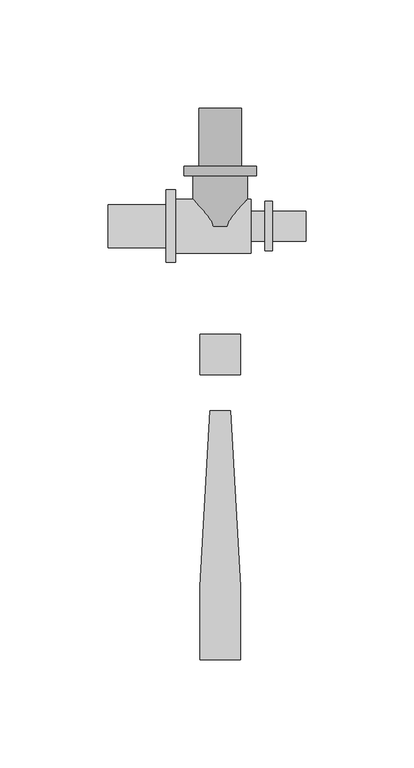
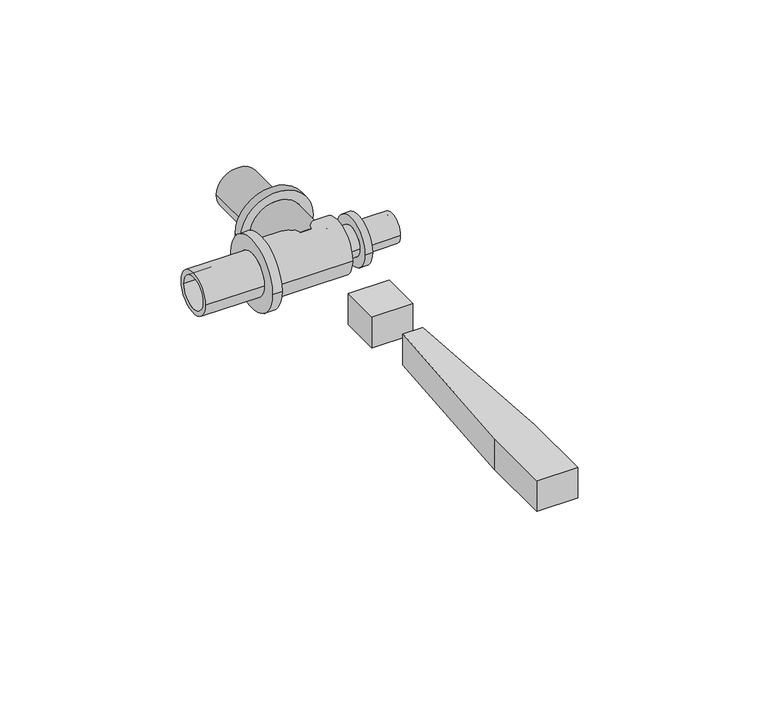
"""IFC4 building model written with IfcOpenShell, lengths in millimetres: pipe fitting geometry, RAUTITAN_T-piece_LX : RTI LX T DN."""

from ifc_helpers import new_model, si_unit, frame, origin, origin_with_axes, place, context, project, spatial, polyline, circle_curve, outline, extrude, source, transform, mapped, element, save
from ifc_brep_helpers import plane_surface, cylinder_surface, revolved_surface, advanced_brep


def pipe_fitting_2bffeb97(model_context):
    return source(origin(), model_context, "Body", "SolidModel", [
        advanced_brep(
        [(-12.5, 23.4, 0.0), (12.5, 23.4, 0.0), (12.5, 0.0, 0.0), (-12.5, 0.0, 0.0), (-16.8, 27.6, 0.0), (16.8, 27.6, 0.0), (16.8, 23.4, 0.0), (-16.8, 23.4, 0.0), (-9.9, 54.6, 0.0), (9.9, 54.6, 0.0), (9.9, 27.6, 0.0), (-9.9, 27.6, 0.0), (-7.6, 0.0, 0.0), (7.6, 0.0, 0.0), (7.6, 54.6, 0.0), (-7.6, 54.6, 0.0)],
        [
            (0, 1, circle_curve(frame((0.0, 23.4, 0.0), z_axis=(0.0, -1.0, 0.0), x_axis=(1.0, 0.0, 0.0)), 12.5)),
            (1, 2),
            (2, 3, circle_curve(frame((0.0, 0.0, 0.0), z_axis=(0.0, 1.0, 0.0), x_axis=(1.0, 0.0, 0.0)), 12.5)),
            (3, 0),
            (4, 5, circle_curve(frame((0.0, 27.6, 0.0), z_axis=(0.0, -1.0, 0.0), x_axis=(1.0, 0.0, 0.0)), 16.8)),
            (5, 6),
            (6, 7, circle_curve(frame((0.0, 23.4, 0.0), z_axis=(0.0, 1.0, 0.0), x_axis=(1.0, 0.0, 0.0)), 16.8)),
            (7, 4),
            (8, 9, circle_curve(frame((0.0, 54.6, 0.0), z_axis=(0.0, -1.0, 0.0), x_axis=(1.0, 0.0, 0.0)), 9.9)),
            (9, 10),
            (10, 11, circle_curve(frame((0.0, 27.6, 0.0), z_axis=(0.0, 1.0, 0.0), x_axis=(1.0, 0.0, 0.0)), 9.9)),
            (11, 8),
            (12, 13, circle_curve(frame((0.0, 0.0, 0.0), z_axis=(0.0, -1.0, 0.0), x_axis=(1.0, 0.0, 0.0)), 7.6)),
            (13, 14),
            (14, 15, circle_curve(frame((0.0, 54.6, 0.0), z_axis=(0.0, 1.0, 0.0), x_axis=(1.0, 0.0, 0.0)), 7.6)),
            (15, 12),
            (1, 0, circle_curve(frame((0.0, 23.4, 0.0), z_axis=(0.0, -1.0, 0.0), x_axis=(-1.0, 0.0, 0.0)), 12.5)),
            (3, 2, circle_curve(frame((0.0, 0.0, 0.0), z_axis=(0.0, 1.0, 0.0), x_axis=(-1.0, 0.0, 0.0)), 12.5)),
            (6, 7, circle_curve(frame((0.0, 23.4, 0.0), z_axis=(0.0, -1.0, 0.0), x_axis=(-1.0, 0.0, 0.0)), 16.8)),
            (5, 4, circle_curve(frame((0.0, 27.6, 0.0), z_axis=(0.0, -1.0, 0.0), x_axis=(-1.0, 0.0, 0.0)), 16.8)),
            (10, 11, circle_curve(frame((0.0, 27.6, 0.0), z_axis=(0.0, -1.0, 0.0), x_axis=(-1.0, 0.0, 0.0)), 9.9)),
            (9, 8, circle_curve(frame((0.0, 54.6, 0.0), z_axis=(0.0, -1.0, 0.0), x_axis=(-1.0, 0.0, 0.0)), 9.9)),
            (14, 15, circle_curve(frame((0.0, 54.6, 0.0), z_axis=(0.0, -1.0, 0.0), x_axis=(-1.0, 0.0, 0.0)), 7.6)),
            (13, 12, circle_curve(frame((0.0, 0.0, 0.0), z_axis=(0.0, -1.0, 0.0), x_axis=(-1.0, 0.0, 0.0)), 7.6)),
        ],
        [
            cylinder_surface(frame((0.0, 0.0, 0.0), z_axis=(0.0, 1.0, 0.0), x_axis=(1.0, 0.0, 0.0)), 12.5),
            cylinder_surface(frame((0.0, 0.0, 0.0), z_axis=(0.0, 1.0, 0.0), x_axis=(1.0, 0.0, 0.0)), 16.8),
            cylinder_surface(frame((0.0, 0.0, 0.0), z_axis=(0.0, 1.0, 0.0), x_axis=(1.0, 0.0, 0.0)), 9.9),
            revolved_surface(polyline([(7.6, 54.6, 0.0), (7.6, 0.0, 0.0)]), (0.0, 0.0, 0.0), (0.0, 1.0, 0.0)),
            cylinder_surface(frame((0.0, 0.0, 0.0), z_axis=(0.0, 1.0, 0.0), x_axis=(-1.0, 0.0, 0.0)), 12.5),
            plane_surface(frame((0.0, 23.4, 0.0), z_axis=(0.0, -1.0, 0.0), x_axis=(-1.0, 0.0, 0.0))),
            cylinder_surface(frame((0.0, 0.0, 0.0), z_axis=(0.0, 1.0, 0.0), x_axis=(-1.0, 0.0, 0.0)), 16.8),
            plane_surface(frame((0.0, 27.6, 0.0), z_axis=(0.0, 1.0, 0.0), x_axis=(-1.0, 0.0, 0.0))),
            cylinder_surface(frame((0.0, 0.0, 0.0), z_axis=(0.0, 1.0, 0.0), x_axis=(-1.0, 0.0, 0.0)), 9.9),
            plane_surface(frame((0.0, 54.6, 0.0), z_axis=(0.0, 1.0, 0.0), x_axis=(-1.0, 0.0, 0.0))),
            revolved_surface(polyline([(-7.6, 54.6, 0.0), (-7.6, 0.0, 0.0)]), (0.0, 0.0, 0.0), (0.0, 1.0, 0.0)),
            plane_surface(frame((0.0, 0.0, 0.0), z_axis=(0.0, -1.0, 0.0), x_axis=(-1.0, 0.0, 0.0))),
        ],
        [
            (0, [[1, 2, 3, 4]]),
            (1, [[5, 6, 7, 8]]),
            (2, [[9, 10, 11, 12]]),
            (3, [[13, 14, 15, 16]]),
            (4, [[17, -4, 18, -2]]),
            (5, [[19, -7], [-17, -1]]),
            (6, [[20, -8, -19, -6]]),
            (7, [[-20, -5], [21, -11]]),
            (8, [[22, -12, -21, -10]]),
            (9, [[-22, -9], [23, -15]]),
            (10, [[24, -16, -23, -14]]),
            (11, [[-18, -3], [-24, -13]]),
        ],
    ),
        advanced_brep(
        [(-52.0, 7.6, 0.0), (-52.0, -7.6, 0.0), (12.5, -7.6, 0.0), (12.5, 7.6, 0.0), (14.3, 12.5, 0.0), (14.3, -12.5, 0.0), (-20.8, -12.5, 0.0), (-20.8, 12.5, 0.0), (-20.8, 16.8, 0.0), (-20.8, -16.8, 0.0), (-25.0, -16.8, 0.0), (-25.0, 16.8, 0.0), (-25.0, 9.9, 0.0), (-25.0, -9.9, 0.0), (-52.0, -9.9, 0.0), (-52.0, 9.9, 0.0), (12.5, 5.1, 0.0), (12.5, -5.1, 0.0), (39.6, -5.1, 0.0), (39.6, 5.1, 0.0), (39.6, 6.9, 0.0), (39.6, -6.9, 0.0), (24.1, -6.9, 0.0), (24.1, 6.9, 0.0), (24.1, 11.4, 0.0), (24.1, -11.4, 0.0), (20.8, -11.4, 0.0), (20.8, 11.4, 0.0), (20.8, 6.9, 0.0), (20.8, -6.9, 0.0), (14.3, -6.9, 0.0), (14.3, 6.9, 0.0)],
        [
            (0, 1, circle_curve(frame((-52.0, 0.0, 0.0), z_axis=(-1.0, 0.0, 0.0), x_axis=(0.0, -1.0, 0.0)), 7.6)),
            (1, 2),
            (2, 3, circle_curve(frame((12.5, 0.0, 0.0), z_axis=(1.0, 0.0, 0.0), x_axis=(0.0, -1.0, 0.0)), 7.6)),
            (3, 0),
            (4, 5, circle_curve(frame((14.3, 0.0, 0.0), z_axis=(-1.0, 0.0, 0.0), x_axis=(0.0, -1.0, 0.0)), 12.5)),
            (5, 6),
            (6, 7, circle_curve(frame((-20.8, 0.0, 0.0), z_axis=(1.0, 0.0, 0.0), x_axis=(0.0, -1.0, 0.0)), 12.5)),
            (7, 4),
            (1, 0, circle_curve(frame((-52.0, 0.0, 0.0), z_axis=(-1.0, 0.0, 0.0), x_axis=(0.0, 1.0, 0.0)), 7.6)),
            (3, 2, circle_curve(frame((12.5, 0.0, 0.0), z_axis=(1.0, 0.0, 0.0), x_axis=(0.0, 1.0, 0.0)), 7.6)),
            (5, 4, circle_curve(frame((14.3, 0.0, 0.0), z_axis=(-1.0, 0.0, 0.0), x_axis=(0.0, 1.0, 0.0)), 12.5)),
            (7, 6, circle_curve(frame((-20.8, 0.0, 0.0), z_axis=(1.0, 0.0, 0.0), x_axis=(0.0, 1.0, 0.0)), 12.5)),
            (8, 9, circle_curve(frame((-20.8, 0.0, 0.0), z_axis=(-1.0, 0.0, 0.0), x_axis=(0.0, -1.0, 0.0)), 16.8)),
            (9, 10),
            (10, 11, circle_curve(frame((-25.0, 0.0, 0.0), z_axis=(1.0, 0.0, 0.0), x_axis=(0.0, -1.0, 0.0)), 16.8)),
            (11, 8),
            (12, 13, circle_curve(frame((-25.0, 0.0, 0.0), z_axis=(-1.0, 0.0, 0.0), x_axis=(0.0, -1.0, 0.0)), 9.9)),
            (13, 14),
            (14, 15, circle_curve(frame((-52.0, 0.0, 0.0), z_axis=(1.0, 0.0, 0.0), x_axis=(0.0, -1.0, 0.0)), 9.9)),
            (15, 12),
            (8, 9, circle_curve(frame((-20.8, 0.0, 0.0), z_axis=(1.0, 0.0, 0.0), x_axis=(0.0, 1.0, 0.0)), 16.8)),
            (11, 10, circle_curve(frame((-25.0, 0.0, 0.0), z_axis=(1.0, 0.0, 0.0), x_axis=(0.0, 1.0, 0.0)), 16.8)),
            (12, 13, circle_curve(frame((-25.0, 0.0, 0.0), z_axis=(1.0, 0.0, 0.0), x_axis=(0.0, 1.0, 0.0)), 9.9)),
            (15, 14, circle_curve(frame((-52.0, 0.0, 0.0), z_axis=(1.0, 0.0, 0.0), x_axis=(0.0, 1.0, 0.0)), 9.9)),
            (16, 17, circle_curve(frame((12.5, 0.0, 0.0), z_axis=(-1.0, 0.0, 0.0), x_axis=(0.0, -1.0, 0.0)), 5.1)),
            (17, 18),
            (18, 19, circle_curve(frame((39.6, 0.0, 0.0), z_axis=(1.0, 0.0, 0.0), x_axis=(0.0, -1.0, 0.0)), 5.1)),
            (19, 16),
            (20, 21, circle_curve(frame((39.6, 0.0, 0.0), z_axis=(-1.0, 0.0, 0.0), x_axis=(0.0, -1.0, 0.0)), 6.9)),
            (21, 22),
            (22, 23, circle_curve(frame((24.1, 0.0, 0.0), z_axis=(1.0, 0.0, 0.0), x_axis=(0.0, -1.0, 0.0)), 6.9)),
            (23, 20),
            (24, 25, circle_curve(frame((24.1, 0.0, 0.0), z_axis=(-1.0, 0.0, 0.0), x_axis=(0.0, -1.0, 0.0)), 11.4)),
            (25, 26),
            (26, 27, circle_curve(frame((20.8, 0.0, 0.0), z_axis=(1.0, 0.0, 0.0), x_axis=(0.0, -1.0, 0.0)), 11.4)),
            (27, 24),
            (28, 29, circle_curve(frame((20.8, 0.0, 0.0), z_axis=(-1.0, 0.0, 0.0), x_axis=(0.0, -1.0, 0.0)), 6.9)),
            (29, 30),
            (30, 31, circle_curve(frame((14.3, 0.0, 0.0), z_axis=(1.0, 0.0, 0.0), x_axis=(0.0, -1.0, 0.0)), 6.9)),
            (31, 28),
            (16, 17, circle_curve(frame((12.5, 0.0, 0.0), z_axis=(1.0, 0.0, 0.0), x_axis=(0.0, 1.0, 0.0)), 5.1)),
            (19, 18, circle_curve(frame((39.6, 0.0, 0.0), z_axis=(1.0, 0.0, 0.0), x_axis=(0.0, 1.0, 0.0)), 5.1)),
            (20, 21, circle_curve(frame((39.6, 0.0, 0.0), z_axis=(1.0, 0.0, 0.0), x_axis=(0.0, 1.0, 0.0)), 6.9)),
            (23, 22, circle_curve(frame((24.1, 0.0, 0.0), z_axis=(1.0, 0.0, 0.0), x_axis=(0.0, 1.0, 0.0)), 6.9)),
            (24, 25, circle_curve(frame((24.1, 0.0, 0.0), z_axis=(1.0, 0.0, 0.0), x_axis=(0.0, 1.0, 0.0)), 11.4)),
            (27, 26, circle_curve(frame((20.8, 0.0, 0.0), z_axis=(1.0, 0.0, 0.0), x_axis=(0.0, 1.0, 0.0)), 11.4)),
            (28, 29, circle_curve(frame((20.8, 0.0, 0.0), z_axis=(1.0, 0.0, 0.0), x_axis=(0.0, 1.0, 0.0)), 6.9)),
            (31, 30, circle_curve(frame((14.3, 0.0, 0.0), z_axis=(1.0, 0.0, 0.0), x_axis=(0.0, 1.0, 0.0)), 6.9)),
        ],
        [
            revolved_surface(polyline([(12.5, -7.6, 0.0), (-52.0, -7.6, 0.0)]), (0.0, 0.0, 0.0), (1.0, 0.0, 0.0)),
            cylinder_surface(frame((0.0, 0.0, 0.0), z_axis=(1.0, 0.0, 0.0), x_axis=(0.0, -1.0, 0.0)), 12.5),
            revolved_surface(polyline([(12.5, 7.6, 0.0), (-52.0, 7.6, 0.0)]), (0.0, 0.0, 0.0), (1.0, 0.0, 0.0)),
            cylinder_surface(frame((0.0, 0.0, 0.0), z_axis=(1.0, 0.0, 0.0), x_axis=(0.0, 1.0, 0.0)), 12.5),
            cylinder_surface(frame((0.0, 0.0, 0.0), z_axis=(1.0, 0.0, 0.0), x_axis=(0.0, -1.0, 0.0)), 16.8),
            cylinder_surface(frame((0.0, 0.0, 0.0), z_axis=(1.0, 0.0, 0.0), x_axis=(0.0, -1.0, 0.0)), 9.9),
            plane_surface(frame((-20.8, 0.0, 0.0), z_axis=(1.0, 0.0, 0.0), x_axis=(0.0, 1.0, 0.0))),
            cylinder_surface(frame((0.0, 0.0, 0.0), z_axis=(1.0, 0.0, 0.0), x_axis=(0.0, 1.0, 0.0)), 16.8),
            plane_surface(frame((-25.0, 0.0, 0.0), z_axis=(-1.0, 0.0, 0.0), x_axis=(0.0, 1.0, 0.0))),
            cylinder_surface(frame((0.0, 0.0, 0.0), z_axis=(1.0, 0.0, 0.0), x_axis=(0.0, 1.0, 0.0)), 9.9),
            plane_surface(frame((-52.0, 0.0, 0.0), z_axis=(-1.0, 0.0, 0.0), x_axis=(0.0, 1.0, 0.0))),
            revolved_surface(polyline([(39.6, -5.1, 0.0), (12.5, -5.1, 0.0)]), (0.0, 0.0, 0.0), (1.0, 0.0, 0.0)),
            cylinder_surface(frame((0.0, 0.0, 0.0), z_axis=(1.0, 0.0, 0.0), x_axis=(0.0, -1.0, 0.0)), 6.9),
            cylinder_surface(frame((0.0, 0.0, 0.0), z_axis=(1.0, 0.0, 0.0), x_axis=(0.0, -1.0, 0.0)), 11.4),
            plane_surface(frame((12.5, 0.0, 0.0), z_axis=(-1.0, 0.0, 0.0), x_axis=(0.0, 1.0, 0.0))),
            revolved_surface(polyline([(39.6, 5.1, 0.0), (12.5, 5.1, 0.0)]), (0.0, 0.0, 0.0), (1.0, 0.0, 0.0)),
            plane_surface(frame((39.6, 0.0, 0.0), z_axis=(1.0, 0.0, 0.0), x_axis=(0.0, 1.0, 0.0))),
            cylinder_surface(frame((0.0, 0.0, 0.0), z_axis=(1.0, 0.0, 0.0), x_axis=(0.0, 1.0, 0.0)), 6.9),
            plane_surface(frame((24.1, 0.0, 0.0), z_axis=(1.0, 0.0, 0.0), x_axis=(0.0, 1.0, 0.0))),
            cylinder_surface(frame((0.0, 0.0, 0.0), z_axis=(1.0, 0.0, 0.0), x_axis=(0.0, 1.0, 0.0)), 11.4),
            plane_surface(frame((20.8, 0.0, 0.0), z_axis=(-1.0, 0.0, 0.0), x_axis=(0.0, 1.0, 0.0))),
            plane_surface(frame((14.3, 0.0, 0.0), z_axis=(1.0, 0.0, 0.0), x_axis=(0.0, 1.0, 0.0))),
        ],
        [
            (0, [[1, 2, 3, 4]]),
            (1, [[5, 6, 7, 8]]),
            (2, [[9, -4, 10, -2]]),
            (3, [[11, -8, 12, -6]]),
            (4, [[13, 14, 15, 16]]),
            (5, [[17, 18, 19, 20]]),
            (6, [[21, -13], [-12, -7]]),
            (7, [[-21, -16, 22, -14]]),
            (8, [[-22, -15], [23, -17]]),
            (9, [[-23, -20, 24, -18]]),
            (10, [[-24, -19], [-9, -1]]),
            (11, [[25, 26, 27, 28]]),
            (12, [[29, 30, 31, 32]]),
            (13, [[33, 34, 35, 36]]),
            (12, [[37, 38, 39, 40]]),
            (14, [[-10, -3], [41, -25]]),
            (15, [[-41, -28, 42, -26]]),
            (16, [[43, -29], [-42, -27]]),
            (17, [[-43, -32, 44, -30]]),
            (18, [[45, -33], [-44, -31]]),
            (19, [[-45, -36, 46, -34]]),
            (20, [[-46, -35], [47, -37]]),
            (17, [[-47, -40, 48, -38]]),
            (21, [[-11, -5], [-48, -39]]),
        ],
    ),
        extrude(outline(polyline([(4.7088895, -85.3166715), (9.4177791, -166.6553807), (9.4177791, -200.6844652), (-9.4177791, -200.6844652), (-9.4177791, -166.6553807), (-4.7088895, -85.3166715), (4.7088895, -85.3166715)])), origin_with_axes(), (0.0, 0.0, 1.0), 15.0),
        extrude(outline(polyline([(9.4177791, -50.0), (9.4177791, -68.8355582), (-9.4177791, -68.8355582), (-9.4177791, -50.0), (9.4177791, -50.0)])), origin_with_axes(), (0.0, 0.0, 1.0), 15.0),
    ])


if __name__ == "__main__":
    model = new_model("IFC4")
    model_context = context("Model", 3, world=origin())
    ifc_project = project(units=[si_unit("LENGTHUNIT", "METRE", prefix="MILLI")], contexts=[model_context])
    site = spatial("IfcSite", under=ifc_project)
    building = spatial("IfcBuilding", under=site)
    placement = place(None, origin())
    pipe_fitting_shape = pipe_fitting_2bffeb97(model_context)
    element("IfcPipeFitting", 1, ObjectType="RAUTITAN_T-piece_LX : RTI LX T DN", at=placement, inside=building, context=model_context, shape_type="MappedRepresentation", body=[
        mapped(pipe_fitting_shape, transform((0.0, 0.0, 0.0), x_axis=(1.0, 0.0, 0.0), y_axis=(0.0, 1.0, 0.0), z_axis=(0.0, 0.0, 1.0))),
    ])
    save(model, "model.ifc")
